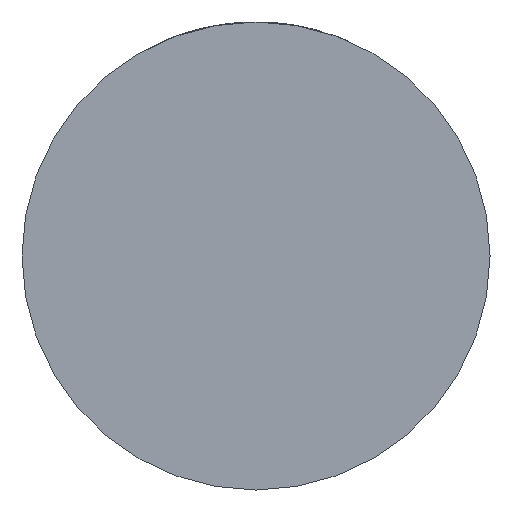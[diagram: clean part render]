
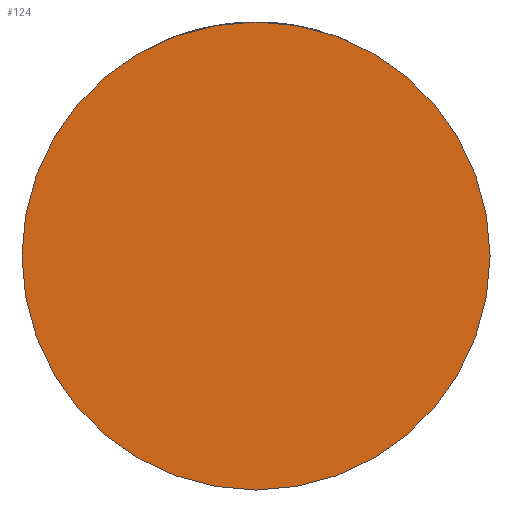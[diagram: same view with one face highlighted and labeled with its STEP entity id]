
A CAD part, front view. The second image highlights one B-rep face of the part: STEP entity #124.
In plain terms, the highlighted planar face has unit normal (0, -1, 0).
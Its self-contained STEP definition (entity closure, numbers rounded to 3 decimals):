
#6 = EDGE_CURVE ( 'NONE', #1306, #987, #4141, .T. ) ;
#97 = ORIENTED_EDGE ( 'NONE', *, *, #6, .T. ) ;
#124 = ADVANCED_FACE ( 'NONE', ( #3503 ), #2846, .T. ) ;
#987 = VERTEX_POINT ( 'NONE', #2347 ) ;
#1021 = EDGE_LOOP ( 'NONE', ( #97, #3413 ) ) ;
#1094 = CARTESIAN_POINT ( 'NONE',  ( 0., -25., 0. ) ) ;
#1272 = AXIS2_PLACEMENT_3D ( 'NONE', #1094, #2828, #2427 ) ;
#1306 = VERTEX_POINT ( 'NONE', #3016 ) ;
#1365 = DIRECTION ( 'NONE',  ( 1., 0., 0. ) ) ;
#1531 = EDGE_CURVE ( 'NONE', #987, #1306, #3806, .T. ) ;
#1853 = AXIS2_PLACEMENT_3D ( 'NONE', #3526, #2813, #3508 ) ;
#2080 = CARTESIAN_POINT ( 'NONE',  ( 0., -25., 0. ) ) ;
#2198 = AXIS2_PLACEMENT_3D ( 'NONE', #2080, #3089, #1365 ) ;
#2347 = CARTESIAN_POINT ( 'NONE',  ( 32., -25., 0. ) ) ;
#2427 = DIRECTION ( 'NONE',  ( 1., 0., 0. ) ) ;
#2813 = DIRECTION ( 'NONE',  ( 0., -1., 0. ) ) ;
#2828 = DIRECTION ( 'NONE',  ( 0., -1., 0. ) ) ;
#2846 = PLANE ( 'NONE',  #1272 ) ;
#3016 = CARTESIAN_POINT ( 'NONE',  ( -32., -25., 0. ) ) ;
#3089 = DIRECTION ( 'NONE',  ( 0., -1., 0. ) ) ;
#3413 = ORIENTED_EDGE ( 'NONE', *, *, #1531, .T. ) ;
#3503 = FACE_OUTER_BOUND ( 'NONE', #1021, .T. ) ;
#3508 = DIRECTION ( 'NONE',  ( 1., 0., 0. ) ) ;
#3526 = CARTESIAN_POINT ( 'NONE',  ( 0., -25., 0. ) ) ;
#3806 = CIRCLE ( 'NONE', #1853, 32. ) ;
#4141 = CIRCLE ( 'NONE', #2198, 32. ) ;
